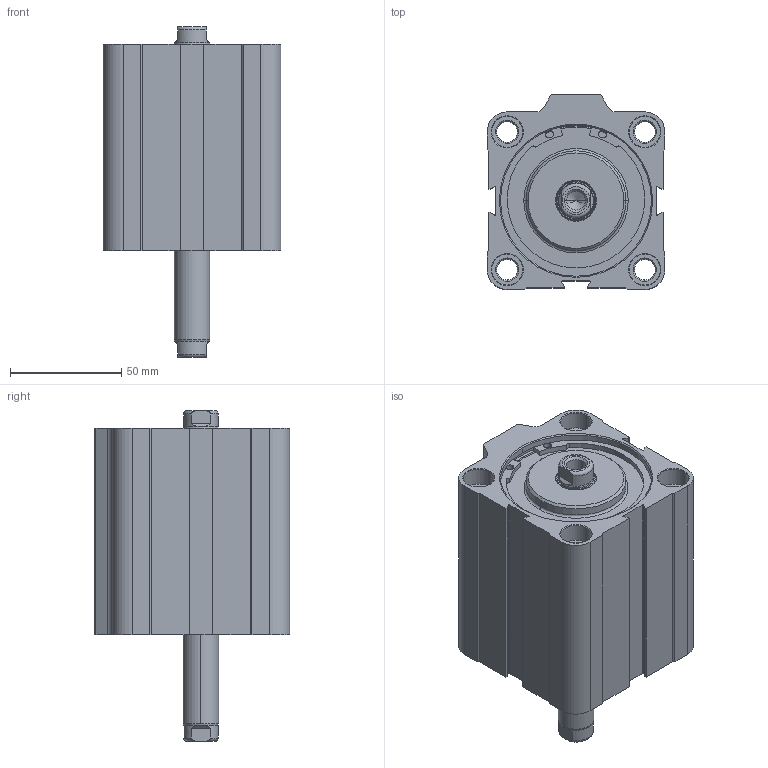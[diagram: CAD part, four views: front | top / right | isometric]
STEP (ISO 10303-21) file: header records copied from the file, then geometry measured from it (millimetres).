
FILE_DESCRIPTION (( 'STEP AP214' ), '1' );
FILE_NAME ('D11M40630040.STEP', '2021-11-08T13:43:50', ( '' ), ( '' ), 'SwSTEP 2.0', 'SolidWorks 2016', '' );
FILE_SCHEMA (( 'AUTOMOTIVE_DESIGN' ));
Length unit declared in the file: millimetre
Products named in the file (6): D11M40630040; 22.F03.000_22.F03.040; Pistone Ø63 corsa breve WEB; TA Ø63 Corsa Breve WEB; 000.506.7_22.063.040; 22.G01.000_22.G01.040
Assembly tree (6 placements, depth 2):
  D11M40630040
    000.506.7_22.063.040
    22.G01.000_22.G01.040
    Pistone Ø63 corsa breve WEB
    TA Ø63 Corsa Breve WEB  x2
    22.F03.000_22.F03.040
Bounding box: 80 x 88 x 149 mm (x, y, z)
Volume: 425162.3 mm3; surface area: 118290.5 mm2
Topology: 10 solids, 10 shells, 436 faces, 987 edges, 599 vertices
Faces by surface type: cylinder 161, cone 138, plane 107, torus 30
Entity records: 11681 total; most frequent: CARTESIAN_POINT 1929, DIRECTION 1911, ORIENTED_EDGE 1614, EDGE_CURVE 807, AXIS2_PLACEMENT_3D 767, VERTEX_POINT 497, EDGE_LOOP 412, CIRCLE 402
